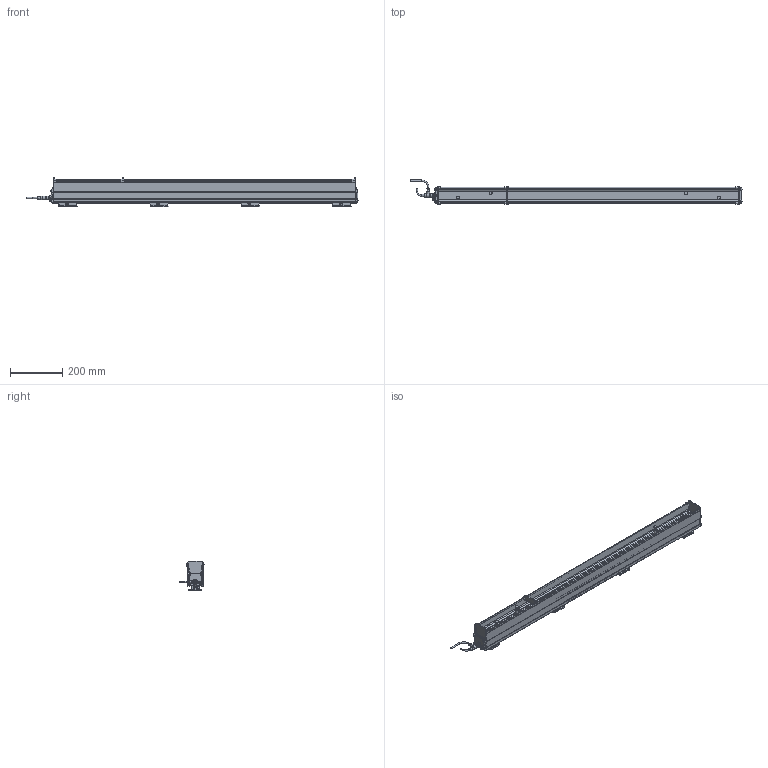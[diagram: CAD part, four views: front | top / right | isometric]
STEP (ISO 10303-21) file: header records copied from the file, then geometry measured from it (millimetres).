
FILE_DESCRIPTION(/* description */ (''),/* implementation_level */ '2;1');
FILE_NAME(/* name */ 'THUNDERION2_3D_1000-1195',/* time_stamp */ '2017-09-28T10:53:56+02:00',/* author */ (''),/* organization */ (''),/* preprocessor_version */ 'ST-DEVELOPER v15.7',/* originating_system */ 'HiCAD 2015 2002.1 Build 408',/* authorisation */ '');
FILE_SCHEMA (('AUTOMOTIVE_DESIGN { 1 0 10303 214 1 1 1 1 }'));
Products named in the file (100): Root; -_ThunderION 1000/1195; -_Side profile; -_Bar; -_Connector straight; EXTRUDED SOLID_0; -_Cord; REVOLVED SOLID_1; REVOLVED SOLID_3; DIN 13-M12x1,5; -_Connector angled; REVOLVED SOLID_2; 4532000100_Mounting bracket bars; -_Side piece; -_Slide piece; -_Bracket small; DIN 13-M3; DIN 76-M3; -_Cable End; light pipe M; light pipe L; -_Cap CE; -_Stud M4; -_Connector M12 male 5 pole_1; -_Contacts; ABSR_1_2_1_1_Inner part; ABSR_1_2_1_2_Inner part; bus; Pg 9; -_Ring tongue terminal; 9230000020_Nut M4; GEWINDE; 9240100020_Spring washer M4; ISO 7051-ST3.5x9.5-C-H_Tapping screws_0; -_Fill; -_Dead end; -_Cap DE; -_Emitter; -_Support Side Profile; -_End Plate
Assembly tree (99 placements, depth 6):
  Root
    -_ThunderION 1000/1195
      -_Side profile
      -_Side profile
      -_Bar
      -_Connector straight
        EXTRUDED SOLID_0
        -_Cord
        REVOLVED SOLID_1
        REVOLVED SOLID_3
          DIN 13-M12x1,5
      -_Connector angled
        REVOLVED SOLID_1
        EXTRUDED SOLID_0
        -_Cord
        REVOLVED SOLID_2
        REVOLVED SOLID_3
          DIN 13-M12x1,5
      4532000100_Mounting bracket bars
        -_Side piece
        -_Side piece
        -_Slide piece
        -_Bracket small
          DIN 13-M3
          DIN 13-M3
          DIN 76-M3
          DIN 76-M3
      4532000100_Mounting bracket bars
        -_Side piece
        -_Side piece
        -_Slide piece
        -_Bracket small
          DIN 13-M3
          DIN 13-M3
          DIN 76-M3
          DIN 76-M3
      4532000100_Mounting bracket bars
        -_Side piece
        -_Side piece
        -_Slide piece
        -_Bracket small
          DIN 13-M3
          DIN 13-M3
          DIN 76-M3
          DIN 76-M3
      4532000100_Mounting bracket bars
        -_Side piece
        -_Side piece
        -_Slide piece
        -_Bracket small
          DIN 13-M3
          DIN 13-M3
          DIN 76-M3
          DIN 76-M3
      -_Cable End
        light pipe M
        light pipe L
        light pipe L
        -_Cap CE
        -_Stud M4
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Bounding box: 1273.34 x 92.25 x 113 mm (x, y, z)
Volume: 3803983.6 mm3; surface area: 926454.1 mm2
Topology: 93 solids, 105 shells, 4183 faces, 10775 edges, 6593 vertices
Faces by surface type: plane 1811, cylinder 1586, bspline 248, torus 198, sphere 175, cone 165
Full cylindrical faces by diameter (mm): 0.8 x10, 1 x10, 2.387 x16, 2.5 x1, 2.64 x16, 3 x32, 3.141 x2, 3.5 x8, 4 x26, 4.2 x3, 4.4 x1, 5 x4, 5.5 x20, 7.3 x8, 8 x2, 8.4 x2, 9 x6, 9.6 x1, 10 x2, 10.16 x1, 10.5 x2, 11 x4, 12 x5, 12.8 x1, 13.8 x4, 13.86 x1, 14.5 x3, 15.199 x1, 15.2 x1
Entity records: 257851 total; most frequent: CARTESIAN_POINT 77966, DIRECTION 20621, PRESENTATION_STYLE_ASSIGNMENT 20295, OVER_RIDING_STYLED_ITEM 20206, DRAUGHTING_PRE_DEFINED_CURVE_FONT 20174, CURVE_STYLE 20174, ORIENTED_EDGE 20174, EDGE_CURVE 10087
